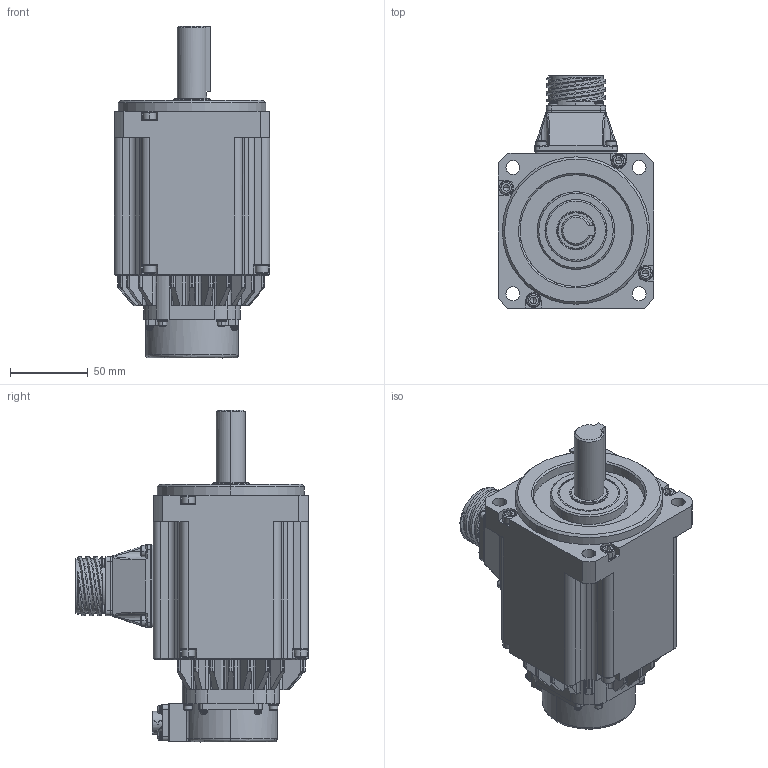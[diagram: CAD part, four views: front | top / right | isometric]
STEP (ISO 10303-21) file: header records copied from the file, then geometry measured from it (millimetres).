
FILE_DESCRIPTION (( 'STEP AP203' ), '1' );
FILE_NAME ('TSM3406N2371E731‘•”z.STEP', '2018-06-23T11:44:00', ( '' ), ( '' ), 'SwSTEP 2.0', 'SolidWorks 2017', '' );
FILE_SCHEMA (( 'CONFIG_CONTROL_DESIGN' ));
Products named in the file (2): Part9^Assem4_1; TSM3406N2371E731装配
Assembly tree (1 placements, depth 2):
  TSM3406N2371E731装配
    Part9^Assem4_1
Bounding box: 100 x 150 x 214 mm (x, y, z)
Volume: 1241663.7 mm3; surface area: 116553.3 mm2
Topology: 1 solids, 19 shells, 1797 faces, 4873 edges, 3182 vertices
Faces by surface type: plane 728, cylinder 559, bspline 297, cone 161, torus 33, sphere 19
Entity records: 88976 total; most frequent: CARTESIAN_POINT 48585, ORIENTED_EDGE 9604, DIRECTION 6188, EDGE_CURVE 4802, VERTEX_POINT 3168, VECTOR 2340, LINE 2340, B_SPLINE_CURVE_WITH_KNOTS 2014
